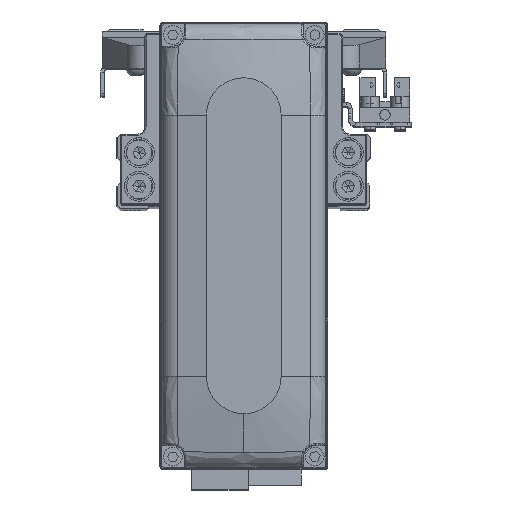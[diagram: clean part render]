
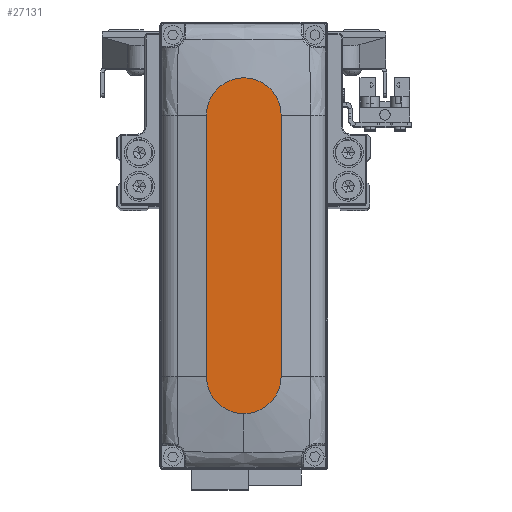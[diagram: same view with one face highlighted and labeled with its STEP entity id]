
A CAD part, top view. The second image highlights one B-rep face of the part: STEP entity #27131.
In plain terms, the highlighted planar face has unit normal (0, 0, 1).
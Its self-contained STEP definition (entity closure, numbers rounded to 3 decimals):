
#918 = CIRCLE ( 'NONE', #25341, 10. ) ;
#1304 = ORIENTED_EDGE ( 'NONE', *, *, #16714, .T. ) ;
#1609 = VERTEX_POINT ( 'NONE', #30073 ) ;
#3912 = DIRECTION ( 'NONE',  ( 0., 0., 1. ) ) ;
#3980 = DIRECTION ( 'NONE',  ( 0., 0., 1. ) ) ;
#5960 = DIRECTION ( 'NONE',  ( 1., 0., 0. ) ) ;
#6229 = VERTEX_POINT ( 'NONE', #27598 ) ;
#6382 = ORIENTED_EDGE ( 'NONE', *, *, #14192, .T. ) ;
#7982 = EDGE_CURVE ( 'NONE', #6229, #15224, #13674, .T. ) ;
#8112 = DIRECTION ( 'NONE',  ( 0., 0., 1. ) ) ;
#9130 = LINE ( 'NONE', #22445, #16212 ) ;
#9233 = PLANE ( 'NONE',  #16608 ) ;
#12279 = ORIENTED_EDGE ( 'NONE', *, *, #28079, .T. ) ;
#13416 = LINE ( 'NONE', #26736, #17761 ) ;
#13674 = CIRCLE ( 'NONE', #38077, 10. ) ;
#13934 = ORIENTED_EDGE ( 'NONE', *, *, #7982, .T. ) ;
#14192 = EDGE_CURVE ( 'NONE', #31610, #1609, #37483, .T. ) ;
#15224 = VERTEX_POINT ( 'NONE', #18241 ) ;
#15743 = CARTESIAN_POINT ( 'NONE',  ( 35., 10., 28. ) ) ;
#16212 = VECTOR ( 'NONE', #35770, 1000. ) ;
#16608 = AXIS2_PLACEMENT_3D ( 'NONE', #22554, #35877, #5960 ) ;
#16714 = EDGE_CURVE ( 'NONE', #36911, #6229, #13416, .T. ) ;
#17243 = DIRECTION ( 'NONE',  ( 1., 0., 0. ) ) ;
#17319 = DIRECTION ( 'NONE',  ( 1., 0., 0. ) ) ;
#17761 = VECTOR ( 'NONE', #40037, 1000. ) ;
#18241 = CARTESIAN_POINT ( 'NONE',  ( -35., -10., 28. ) ) ;
#18666 = AXIS2_PLACEMENT_3D ( 'NONE', #33914, #3980, #17319 ) ;
#21439 = DIRECTION ( 'NONE',  ( 1., 0., 0. ) ) ;
#21665 = ORIENTED_EDGE ( 'NONE', *, *, #29176, .T. ) ;
#22445 = CARTESIAN_POINT ( 'NONE',  ( -35., -10., 28. ) ) ;
#22554 = CARTESIAN_POINT ( 'NONE',  ( 0., 0., 28. ) ) ;
#25341 = AXIS2_PLACEMENT_3D ( 'NONE', #33840, #3912, #17243 ) ;
#26736 = CARTESIAN_POINT ( 'NONE',  ( -35., 10., 28. ) ) ;
#27131 = ADVANCED_FACE ( 'NONE', ( #39151 ), #9233, .T. ) ;
#27598 = CARTESIAN_POINT ( 'NONE',  ( -35., 10., 28. ) ) ;
#28079 = EDGE_CURVE ( 'NONE', #15224, #31610, #9130, .T. ) ;
#29176 = EDGE_CURVE ( 'NONE', #1609, #36911, #918, .T. ) ;
#30073 = CARTESIAN_POINT ( 'NONE',  ( 45., 0., 28. ) ) ;
#30303 = EDGE_LOOP ( 'NONE', ( #1304, #13934, #12279, #6382, #21665 ) ) ;
#31610 = VERTEX_POINT ( 'NONE', #32900 ) ;
#32900 = CARTESIAN_POINT ( 'NONE',  ( 35., -10., 28. ) ) ;
#33840 = CARTESIAN_POINT ( 'NONE',  ( 35., 0., 28. ) ) ;
#33914 = CARTESIAN_POINT ( 'NONE',  ( 35., 0., 28. ) ) ;
#35770 = DIRECTION ( 'NONE',  ( 1., 0., 0. ) ) ;
#35877 = DIRECTION ( 'NONE',  ( 0., 0., 1. ) ) ;
#36911 = VERTEX_POINT ( 'NONE', #15743 ) ;
#37483 = CIRCLE ( 'NONE', #18666, 10. ) ;
#38018 = CARTESIAN_POINT ( 'NONE',  ( -35., 0., 28. ) ) ;
#38077 = AXIS2_PLACEMENT_3D ( 'NONE', #38018, #8112, #21439 ) ;
#39151 = FACE_OUTER_BOUND ( 'NONE', #30303, .T. ) ;
#40037 = DIRECTION ( 'NONE',  ( -1., 0., 0. ) ) ;
